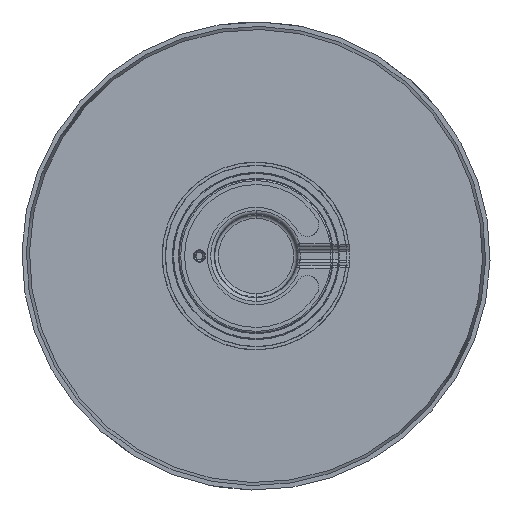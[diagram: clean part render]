
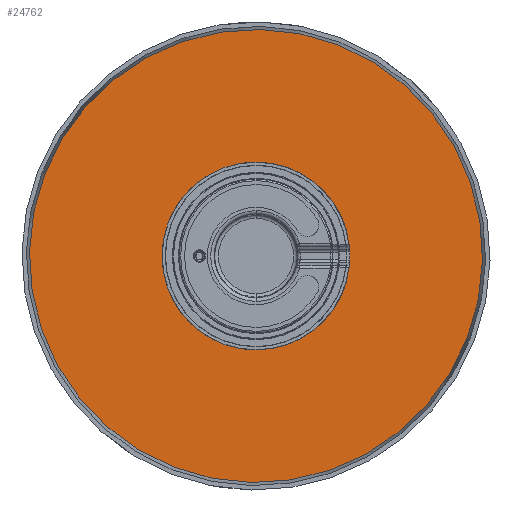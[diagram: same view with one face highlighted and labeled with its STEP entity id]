
A CAD part, front view. The second image highlights one B-rep face of the part: STEP entity #24762.
In plain terms, the highlighted planar face has unit normal (0, -1, 0).
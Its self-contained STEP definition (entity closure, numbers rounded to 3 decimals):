
#379 = DIRECTION ( 'NONE',  ( 0., 1., 0. ) ) ;
#456 = AXIS2_PLACEMENT_3D ( 'NONE', #5946, #5330, #15077 ) ;
#1626 = AXIS2_PLACEMENT_3D ( 'NONE', #1788, #9283, #18718 ) ;
#1788 = CARTESIAN_POINT ( 'NONE',  ( -85.758, 154.5, 33.201 ) ) ;
#1804 = EDGE_LOOP ( 'NONE', ( #2174, #26573 ) ) ;
#2174 = ORIENTED_EDGE ( 'NONE', *, *, #29274, .F. ) ;
#2799 = CARTESIAN_POINT ( 'NONE',  ( 0., 154.5, 0. ) ) ;
#2935 = DIRECTION ( 'NONE',  ( 0.361, 0., 0.933 ) ) ;
#4288 = EDGE_LOOP ( 'NONE', ( #10056, #23746 ) ) ;
#4535 = CIRCLE ( 'NONE', #456, 14. ) ;
#5330 = DIRECTION ( 'NONE',  ( 0., 1., 0. ) ) ;
#5946 = CARTESIAN_POINT ( 'NONE',  ( 0., 154.5, 0. ) ) ;
#6722 = FACE_BOUND ( 'NONE', #4288, .T. ) ;
#8021 = VERTEX_POINT ( 'NONE', #17820 ) ;
#9252 = CIRCLE ( 'NONE', #13882, 14. ) ;
#9283 = DIRECTION ( 'NONE',  ( 0., -1., 0. ) ) ;
#9821 = CARTESIAN_POINT ( 'NONE',  ( 0., 154.5, 0. ) ) ;
#10056 = ORIENTED_EDGE ( 'NONE', *, *, #24795, .T. ) ;
#10114 = VERTEX_POINT ( 'NONE', #25291 ) ;
#11825 = CARTESIAN_POINT ( 'NONE',  ( 5.055, 154.5, 13.056 ) ) ;
#12185 = AXIS2_PLACEMENT_3D ( 'NONE', #2799, #379, #2935 ) ;
#13882 = AXIS2_PLACEMENT_3D ( 'NONE', #19041, #21275, #26100 ) ;
#14472 = DIRECTION ( 'NONE',  ( 0.361, 0., 0.933 ) ) ;
#15077 = DIRECTION ( 'NONE',  ( 0.361, 0., 0.933 ) ) ;
#16143 = PLANE ( 'NONE',  #1626 ) ;
#17820 = CARTESIAN_POINT ( 'NONE',  ( -5.055, 154.5, -13.056 ) ) ;
#18718 = DIRECTION ( 'NONE',  ( 0., 0., -1. ) ) ;
#19041 = CARTESIAN_POINT ( 'NONE',  ( 0., 154.5, 0. ) ) ;
#21106 = EDGE_CURVE ( 'NONE', #10114, #21891, #27469, .T. ) ;
#21275 = DIRECTION ( 'NONE',  ( 0., 1., 0. ) ) ;
#21891 = VERTEX_POINT ( 'NONE', #29252 ) ;
#22864 = VERTEX_POINT ( 'NONE', #11825 ) ;
#23746 = ORIENTED_EDGE ( 'NONE', *, *, #28351, .T. ) ;
#24762 = ADVANCED_FACE ( 'NONE', ( #6722, #26387 ), #16143, .T. ) ;
#24795 = EDGE_CURVE ( 'NONE', #22864, #8021, #9252, .T. ) ;
#25291 = CARTESIAN_POINT ( 'NONE',  ( -33.201, 154.5, -85.758 ) ) ;
#26100 = DIRECTION ( 'NONE',  ( 0.361, 0., 0.933 ) ) ;
#26387 = FACE_OUTER_BOUND ( 'NONE', #1804, .T. ) ;
#26573 = ORIENTED_EDGE ( 'NONE', *, *, #21106, .F. ) ;
#27469 = CIRCLE ( 'NONE', #30532, 91.96 ) ;
#28351 = EDGE_CURVE ( 'NONE', #8021, #22864, #4535, .T. ) ;
#29252 = CARTESIAN_POINT ( 'NONE',  ( 33.201, 154.5, 85.758 ) ) ;
#29274 = EDGE_CURVE ( 'NONE', #21891, #10114, #29604, .T. ) ;
#29604 = CIRCLE ( 'NONE', #12185, 91.96 ) ;
#30532 = AXIS2_PLACEMENT_3D ( 'NONE', #9821, #31433, #14472 ) ;
#31433 = DIRECTION ( 'NONE',  ( 0., 1., 0. ) ) ;
